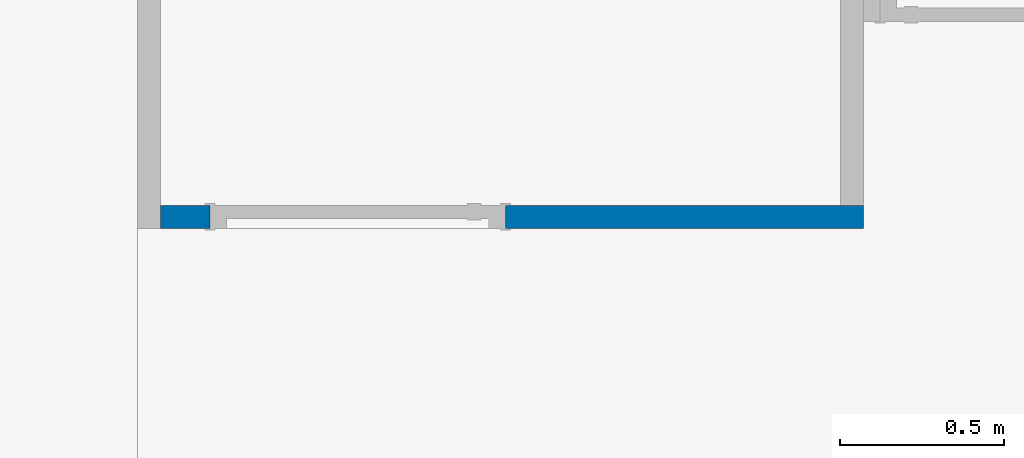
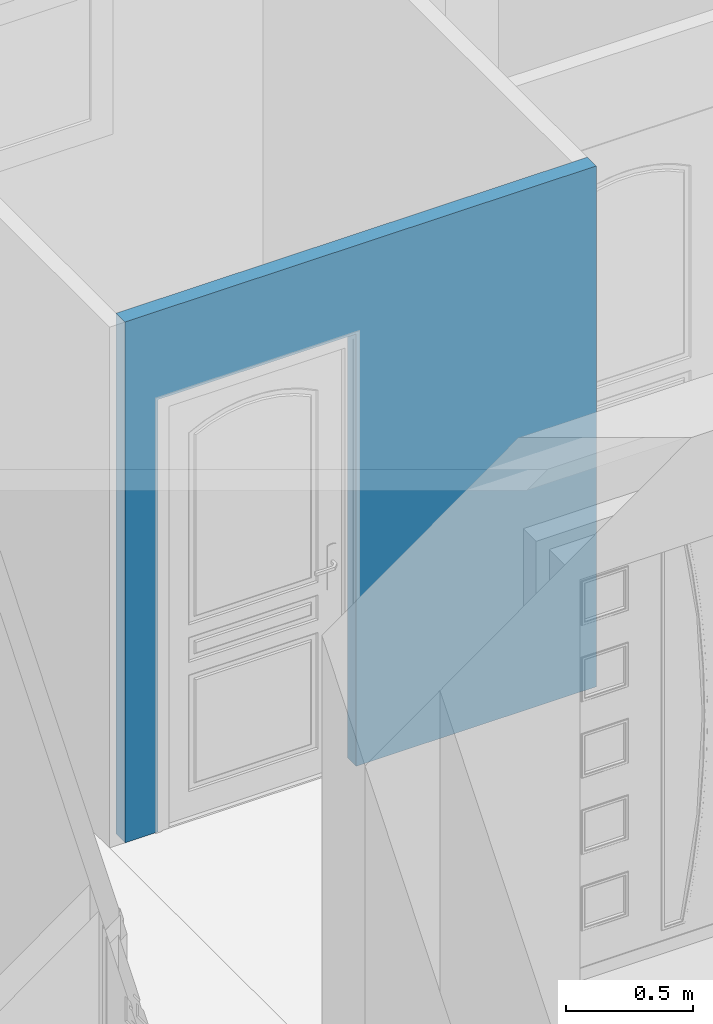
# One storey, part 15 of 23: 1 wall, 1 opening.
"""IFC2X3 building model written with IfcOpenShell, lengths in metres."""

from ifc_helpers import new_model, entity, si_unit, converted_unit, derived_unit, direction, frame, frame_2d, origin, place, context, subcontext, project, spatial, rectangle, extrude, material, layer, layer_set, layer_usage, type_object, element, save


model = new_model("IFC2X3")

# Units and contexts
model_context = context("Model", 3, precision=1e-05, world=origin(), true_north=direction((6.12303176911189e-17, 1.0)))
body_context = subcontext(model_context, "Body", "Model", "MODEL_VIEW")
ifc_project = project(units=[si_unit("LENGTHUNIT", "METRE"), si_unit("AREAUNIT", "SQUARE_METRE"), si_unit("VOLUMEUNIT", "CUBIC_METRE"), converted_unit("PLANEANGLEUNIT", "DEGREE", entity("IfcRatioMeasure", 0.0174532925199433), si_unit("PLANEANGLEUNIT", "RADIAN"), dimensions=[0, 0, 0, 0, 0, 0, 0]), si_unit("MASSUNIT", "GRAM", prefix="KILO"), derived_unit("MASSDENSITYUNIT", [(si_unit("MASSUNIT", "GRAM", prefix="KILO"), 1), (si_unit("LENGTHUNIT", "METRE"), -3)]), si_unit("TIMEUNIT", "SECOND"), si_unit("FREQUENCYUNIT", "HERTZ"), si_unit("THERMODYNAMICTEMPERATUREUNIT", "DEGREE_CELSIUS"), derived_unit("THERMALTRANSMITTANCEUNIT", [(si_unit("MASSUNIT", "GRAM", prefix="KILO"), 1), (si_unit("THERMODYNAMICTEMPERATUREUNIT", "KELVIN"), -1), (si_unit("TIMEUNIT", "SECOND"), -3)]), derived_unit("VOLUMETRICFLOWRATEUNIT", [(si_unit("LENGTHUNIT", "METRE"), 3), (si_unit("TIMEUNIT", "SECOND"), -1)]), si_unit("ELECTRICCURRENTUNIT", "AMPERE"), si_unit("ELECTRICVOLTAGEUNIT", "VOLT"), si_unit("POWERUNIT", "WATT"), si_unit("FORCEUNIT", "NEWTON", prefix="KILO"), si_unit("ILLUMINANCEUNIT", "LUX"), si_unit("LUMINOUSFLUXUNIT", "LUMEN"), si_unit("LUMINOUSINTENSITYUNIT", "CANDELA"), derived_unit("USERDEFINED", [(si_unit("MASSUNIT", "GRAM", prefix="KILO"), -1), (si_unit("LENGTHUNIT", "METRE"), -2), (si_unit("TIMEUNIT", "SECOND"), 3), (si_unit("LUMINOUSFLUXUNIT", "LUMEN"), 1)]), derived_unit("LINEARVELOCITYUNIT", [(si_unit("LENGTHUNIT", "METRE"), 1), (si_unit("TIMEUNIT", "SECOND"), -1)]), si_unit("PRESSUREUNIT", "PASCAL"), derived_unit("USERDEFINED", [(si_unit("LENGTHUNIT", "METRE"), -2), (si_unit("MASSUNIT", "GRAM", prefix="KILO"), 1), (si_unit("TIMEUNIT", "SECOND"), -2)])], contexts=[model_context])

# Site, building, storey
site_placement = place(None, origin())
site = spatial("IfcSite", under=ifc_project, at=site_placement, Name="Default", CompositionType="ELEMENT")
building_placement = place(site_placement, origin())
building = spatial("IfcBuilding", under=site, at=building_placement, CompositionType="ELEMENT")
storey_placement = place(building_placement, origin())
storey = spatial("IfcBuildingStorey", under=building, at=storey_placement, Name="2 - Rez de Chaussée", CompositionType="ELEMENT", Elevation=-1.94916083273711e-14)

# Wall, opening
ifc_material = material(Name="Mur par défaut")
ifc_layer = layer(ifc_material, 0.07)
ifc_layer_set = layer_set([ifc_layer], Name="Mur de base:Cloison distributive Placostil® 72/48 - 1x Placoplatre® BA 13 avec M 48 - EI30 - 33dB - max 3,45m")
ifc_layer_usage = layer_usage(ifc_layer_set, "AXIS2", "NEGATIVE", 0.035)
wall_type = type_object("IfcWallType", Name="Mur de base:Cloison distributive Placostil® 72/48 - 1x Placoplatre® BA 13 avec M 48 - EI30 - 33dB - max 3,45m", PredefinedType="STANDARD", material=ifc_layer_set)
wall_placement = place(storey_placement, frame((-4.62622246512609, 2.33305500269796, 0.0)))
wall = element("IfcWallStandardCase", 1, at=wall_placement, inside=storey, type_object=wall_type, material=ifc_layer_usage, Name="Mur de base:Cloison distributive Placostil® 72/48 - 1x Placoplatre® BA 13 avec M 48 - EI30 - 33dB - max 3,45m", ObjectType="Mur de base:Cloison distributive Placostil® 72/48 - 1x Placoplatre® BA 13 avec M 48 - EI30 - 33dB - max 3,45m", context=body_context, shape_type="SweptSolid", body=[
    extrude(rectangle(XDim=2.13999999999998, YDim=0.0699999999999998, at=frame_2d((1.06999999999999, 6.93889390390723e-18), x_axis=(-1.0, 0.0))), origin(), (0.0, 0.0, 1.0), 2.50000000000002),
])
opening_placement = place(wall_placement, frame((0.14999999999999, -0.0350000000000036, 0.0)))
element("IfcOpeningElement", 2, at=opening_placement, cuts=wall, Name="Int. Simple - moulures:PP Moulure cintrée (0.83 m x 2.04 m):1", ObjectType="Opening", context=body_context, shape_type="SweptSolid", body=[
    extrude(rectangle(XDim=2.075, YDim=0.9, at=frame_2d((1.0375, 0.45), x_axis=(1.0, 0.0))), frame((0.0, 0.0, 0.0), z_axis=(0.0, 1.0, 0.0), x_axis=(0.0, 0.0, 1.0)), (0.0, 0.0, 1.0), 0.07),
])

save(model, "model.ifc")
